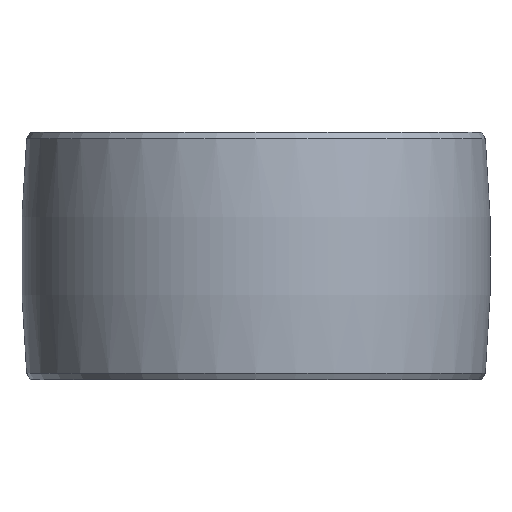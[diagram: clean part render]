
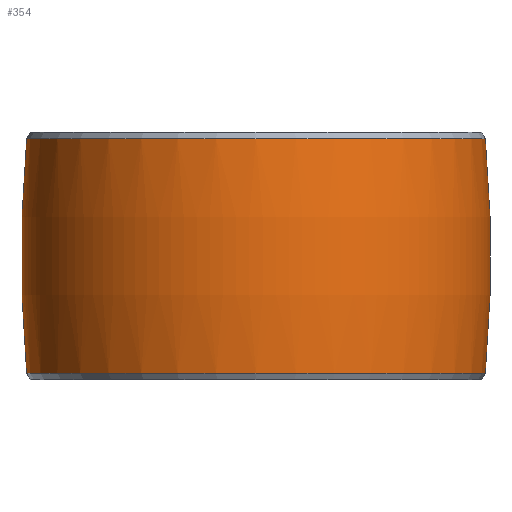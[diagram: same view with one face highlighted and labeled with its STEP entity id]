
A CAD part, front view. The second image highlights one B-rep face of the part: STEP entity #354.
In plain terms, the highlighted toroidal (fillet/blend) face has major radius 82 mm and minor radius 100 mm.
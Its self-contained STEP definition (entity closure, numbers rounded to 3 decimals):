
#49 = DIRECTION ( 'NONE',  ( 1., 0., 0. ) ) ;
#118 = DIRECTION ( 'NONE',  ( 0., -1., 0. ) ) ;
#132 = CIRCLE ( 'NONE', #187, 100. ) ;
#158 = DIRECTION ( 'NONE',  ( -1., 0., 0. ) ) ;
#187 = AXIS2_PLACEMENT_3D ( 'NONE', #945, #118, #1045 ) ;
#199 = DIRECTION ( 'NONE',  ( 0., 0., 1. ) ) ;
#219 = CIRCLE ( 'NONE', #672, 100. ) ;
#223 = EDGE_CURVE ( 'NONE', #998, #650, #263, .T. ) ;
#236 = DIRECTION ( 'NONE',  ( 0., 0., -1. ) ) ;
#263 = CIRCLE ( 'NONE', #653, 17.594 ) ;
#266 = AXIS2_PLACEMENT_3D ( 'NONE', #562, #199, #938 ) ;
#325 = VERTEX_POINT ( 'NONE', #597 ) ;
#354 = ADVANCED_FACE ( 'NONE', ( #867 ), #357, .T. ) ;
#357 = TOROIDAL_SURFACE ( 'NONE', #733, -82., 100. ) ;
#415 = CARTESIAN_POINT ( 'NONE',  ( 17.594, 0., 9. ) ) ;
#471 = CARTESIAN_POINT ( 'NONE',  ( 0., 0., 9. ) ) ;
#562 = CARTESIAN_POINT ( 'NONE',  ( 0., 0., -9. ) ) ;
#597 = CARTESIAN_POINT ( 'NONE',  ( 17.594, 0., -9. ) ) ;
#632 = CIRCLE ( 'NONE', #266, 17.594 ) ;
#635 = CARTESIAN_POINT ( 'NONE',  ( -82., 0., 0. ) ) ;
#646 = DIRECTION ( 'NONE',  ( -1., 0., 0. ) ) ;
#650 = VERTEX_POINT ( 'NONE', #954 ) ;
#653 = AXIS2_PLACEMENT_3D ( 'NONE', #471, #1140, #49 ) ;
#672 = AXIS2_PLACEMENT_3D ( 'NONE', #635, #927, #646 ) ;
#680 = EDGE_CURVE ( 'NONE', #650, #930, #132, .T. ) ;
#689 = EDGE_CURVE ( 'NONE', #930, #325, #632, .T. ) ;
#695 = ORIENTED_EDGE ( 'NONE', *, *, #1023, .F. ) ;
#733 = AXIS2_PLACEMENT_3D ( 'NONE', #1166, #236, #158 ) ;
#797 = ORIENTED_EDGE ( 'NONE', *, *, #689, .T. ) ;
#842 = ORIENTED_EDGE ( 'NONE', *, *, #680, .T. ) ;
#867 = FACE_OUTER_BOUND ( 'NONE', #1062, .T. ) ;
#927 = DIRECTION ( 'NONE',  ( 0., 1., 0. ) ) ;
#930 = VERTEX_POINT ( 'NONE', #1157 ) ;
#938 = DIRECTION ( 'NONE',  ( -1., 0., 0. ) ) ;
#945 = CARTESIAN_POINT ( 'NONE',  ( 82., 0., 0. ) ) ;
#954 = CARTESIAN_POINT ( 'NONE',  ( -17.594, 0., 9. ) ) ;
#974 = ORIENTED_EDGE ( 'NONE', *, *, #223, .T. ) ;
#998 = VERTEX_POINT ( 'NONE', #415 ) ;
#1023 = EDGE_CURVE ( 'NONE', #998, #325, #219, .T. ) ;
#1045 = DIRECTION ( 'NONE',  ( 0., 0., -1. ) ) ;
#1062 = EDGE_LOOP ( 'NONE', ( #695, #974, #842, #797 ) ) ;
#1140 = DIRECTION ( 'NONE',  ( 0., 0., -1. ) ) ;
#1157 = CARTESIAN_POINT ( 'NONE',  ( -17.594, 0., -9. ) ) ;
#1166 = CARTESIAN_POINT ( 'NONE',  ( 0., 0., 0. ) ) ;
